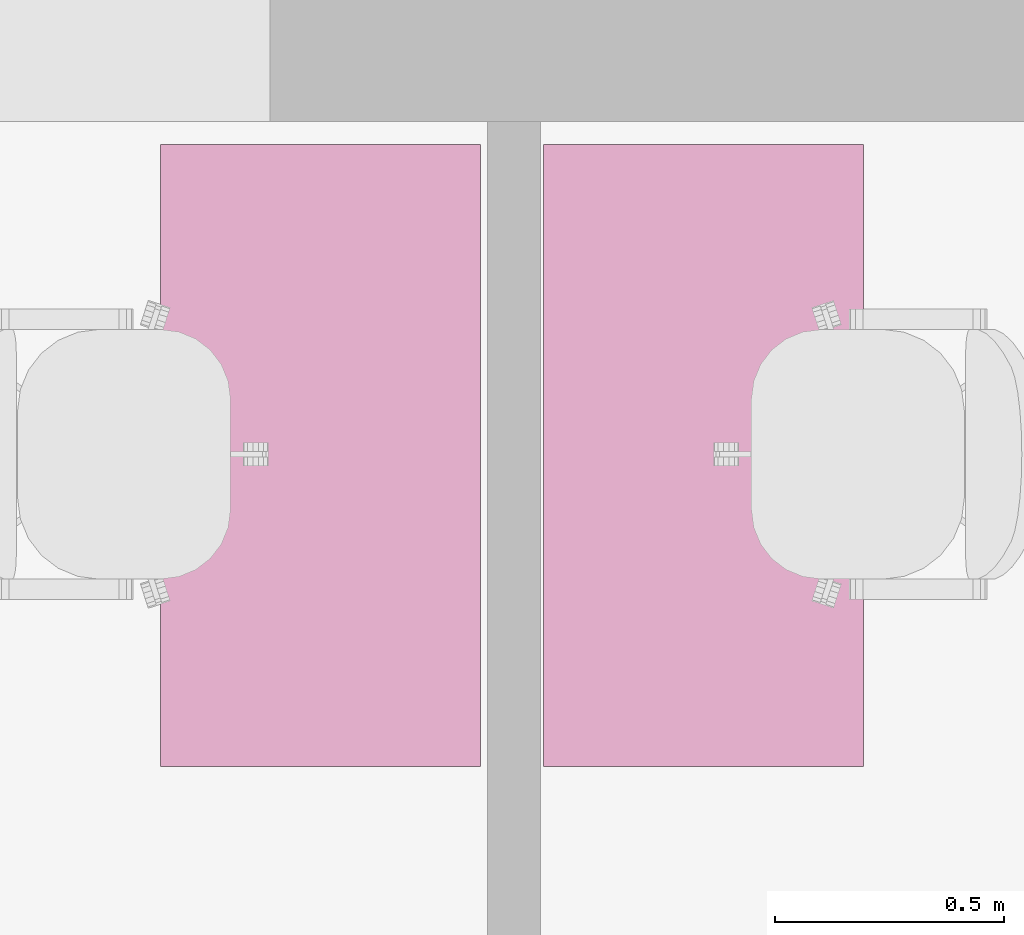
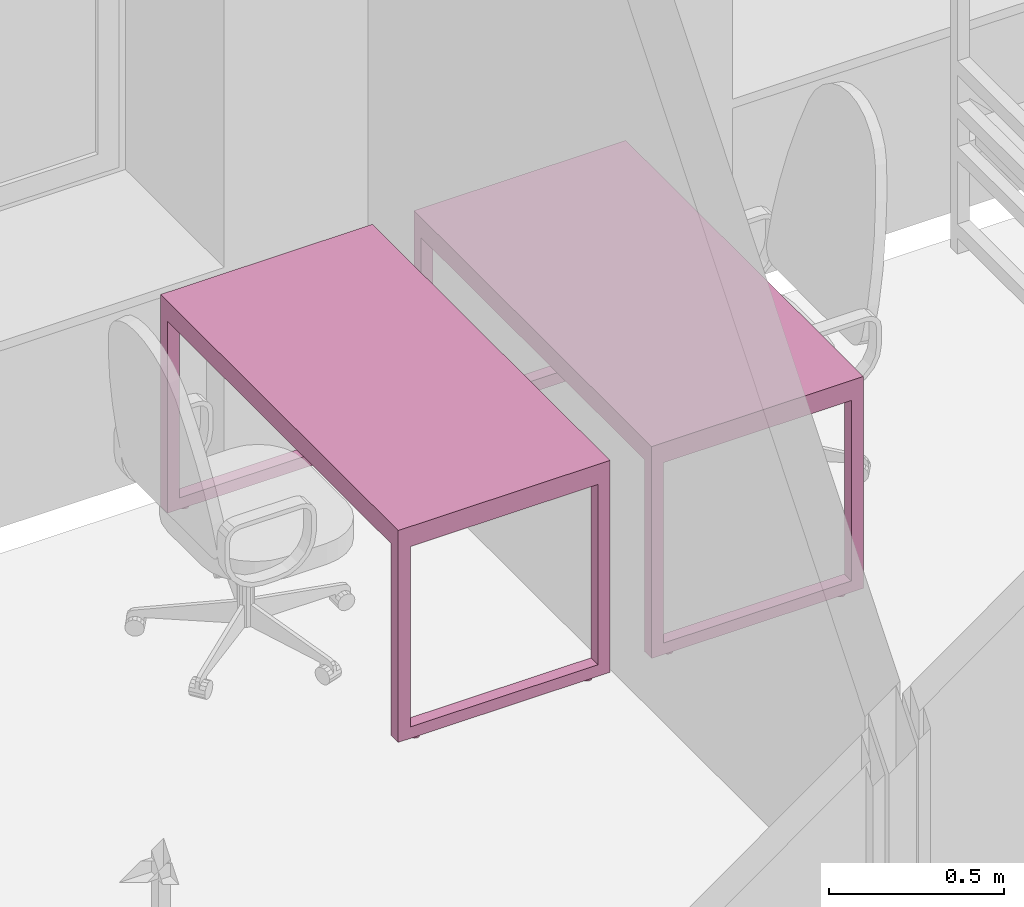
# One storey, part 40 of 48: 2 furnishings.
"""IFC2X3 building model written with IfcOpenShell, lengths in millimetres."""

from ifc_helpers import new_model, entity, si_unit, converted_unit, derived_unit, direction, frame, origin, place, context, subcontext, project, spatial, faceted_brep, source, transform, mapped, material, material_list, type_object, type_shapes, element, save


model = new_model("IFC2X3")

# Units and contexts
model_context = context("Model", 3, precision=0.01, world=origin(), true_north=direction((6.12303176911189e-17, 1.0)))
body_context = subcontext(model_context, "Body", "Model", "MODEL_VIEW")
ifc_project = project(units=[si_unit("LENGTHUNIT", "METRE", prefix="MILLI"), si_unit("AREAUNIT", "SQUARE_METRE"), si_unit("VOLUMEUNIT", "CUBIC_METRE"), converted_unit("PLANEANGLEUNIT", "DEGREE", entity("IfcRatioMeasure", 0.0174532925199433), si_unit("PLANEANGLEUNIT", "RADIAN"), dimensions=[0, 0, 0, 0, 0, 0, 0]), si_unit("MASSUNIT", "GRAM", prefix="KILO"), derived_unit("MASSDENSITYUNIT", [(si_unit("MASSUNIT", "GRAM", prefix="KILO"), 1), (si_unit("LENGTHUNIT", "METRE"), -3)]), si_unit("TIMEUNIT", "SECOND"), si_unit("FREQUENCYUNIT", "HERTZ"), si_unit("THERMODYNAMICTEMPERATUREUNIT", "DEGREE_CELSIUS"), derived_unit("THERMALTRANSMITTANCEUNIT", [(si_unit("MASSUNIT", "GRAM", prefix="KILO"), 1), (si_unit("THERMODYNAMICTEMPERATUREUNIT", "KELVIN"), -1), (si_unit("TIMEUNIT", "SECOND"), -3)]), derived_unit("VOLUMETRICFLOWRATEUNIT", [(si_unit("LENGTHUNIT", "METRE"), 3), (si_unit("TIMEUNIT", "SECOND"), -1)]), si_unit("ELECTRICCURRENTUNIT", "AMPERE"), si_unit("ELECTRICVOLTAGEUNIT", "VOLT"), si_unit("POWERUNIT", "WATT"), si_unit("FORCEUNIT", "NEWTON", prefix="KILO"), si_unit("ILLUMINANCEUNIT", "LUX"), si_unit("LUMINOUSFLUXUNIT", "LUMEN"), si_unit("LUMINOUSINTENSITYUNIT", "CANDELA"), derived_unit("USERDEFINED", [(si_unit("MASSUNIT", "GRAM", prefix="KILO"), -1), (si_unit("LENGTHUNIT", "METRE"), -2), (si_unit("TIMEUNIT", "SECOND"), 3), (si_unit("LUMINOUSFLUXUNIT", "LUMEN"), 1)]), derived_unit("LINEARVELOCITYUNIT", [(si_unit("LENGTHUNIT", "METRE"), 1), (si_unit("TIMEUNIT", "SECOND"), -1)]), si_unit("PRESSUREUNIT", "PASCAL"), derived_unit("USERDEFINED", [(si_unit("LENGTHUNIT", "METRE"), -2), (si_unit("MASSUNIT", "GRAM", prefix="KILO"), 1), (si_unit("TIMEUNIT", "SECOND"), -2)]), derived_unit("LINEARFORCEUNIT", [(si_unit("MASSUNIT", "GRAM", prefix="KILO"), 1), (si_unit("LENGTHUNIT", "METRE"), 1), (si_unit("TIMEUNIT", "SECOND"), -2), (si_unit("LENGTHUNIT", "METRE"), -1)]), derived_unit("PLANARFORCEUNIT", [(si_unit("MASSUNIT", "GRAM", prefix="KILO"), 1), (si_unit("LENGTHUNIT", "METRE"), 1), (si_unit("TIMEUNIT", "SECOND"), -2), (si_unit("LENGTHUNIT", "METRE"), -2)])], contexts=[model_context])

# Site, building, storey, space
site_placement = place(None, origin())
site = spatial("IfcSite", under=ifc_project, at=site_placement, Name="Default", CompositionType="ELEMENT")
building_placement = place(site_placement, origin())
building = spatial("IfcBuilding", under=site, at=building_placement, Name="SMA ARH", CompositionType="ELEMENT")
storey_placement = place(building_placement, frame((0.0, 0.0, 3300.0)))
storey = spatial("IfcBuildingStorey", under=building, at=storey_placement, Name="2 Korrus", CompositionType="ELEMENT", Elevation=3299.99999999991)
space_1_placement = place(storey_placement, origin())
space_1 = spatial("IfcSpace", under=storey, at=space_1_placement, Name="2-24", CompositionType="ELEMENT", InteriorOrExteriorSpace="INTERNAL")

# Furnishing
ifc_material = material(Name="<Unnamed>")
ifc_material_list_1 = material_list([ifc_material, ifc_material])
furniture_type_1 = type_object("IfcFurnitureType", Name="kirjutuslaud 1360x700mm:kirjutuslaud 1360x700mm", material=ifc_material_list_1)
shared_shape_1 = source(origin(), body_context, "Body", "Brep", [
    faceted_brep([(680.0, -350.0, 720.0), (680.0, 350.0, 720.0), (680.0, 350.0, 750.0), (680.0, -350.0, 750.0), (-680.0, -350.0, 720.0), (-680.0, -350.0, 750.0), (-680.0, 350.0, 750.0), (-680.0, 350.0, 720.0)], [[[0, 1, 2, 3]], [[4, 5, 6, 7]], [[1, 0, 4, 7]], [[2, 1, 7, 6]], [[3, 2, 6, 5]], [[0, 3, 5, 4]]]),
    faceted_brep([(-640.0, -310.0, 680.0), (-640.0, 310.0, 680.0), (-640.0, 310.0, 720.0), (-640.0, -310.0, 720.0), (-680.0, -350.0, 720.0), (-680.0, 350.0, 720.0), (-680.0, 350.0, 10.0), (-680.0, -350.0, 10.0), (-680.0, 310.0, 680.0), (-680.0, -310.0, 680.0), (-680.0, -310.0, 50.0), (-680.0, 310.0, 50.0), (-640.0, -350.0, 10.0), (-640.0, -350.0, 680.0), (640.0, -350.0, 680.0), (640.0, -350.0, 10.0), (680.0, -350.0, 10.0), (680.0, -350.0, 720.0), (-640.0, 350.0, 10.0), (680.0, 350.0, 720.0), (680.0, 350.0, 10.0), (640.0, 350.0, 10.0), (640.0, 350.0, 680.0), (-640.0, 350.0, 680.0), (640.0, 310.0, 720.0), (640.0, -310.0, 720.0), (-640.0, 310.0, 50.0), (-640.0, -310.0, 50.0), (640.0, -310.0, 680.0), (640.0, 310.0, 680.0), (680.0, 310.0, 680.0), (680.0, 310.0, 50.0), (680.0, -310.0, 50.0), (680.0, -310.0, 680.0), (640.0, -310.0, 50.0), (640.0, 310.0, 50.0)], [[[0, 1, 2, 3]], [[4, 5, 6, 7], [8, 9, 10, 11]], [[4, 7, 12, 13, 14, 15, 16, 17]], [[18, 12, 7, 6]], [[6, 5, 19, 20, 21, 22, 23, 18]], [[19, 5, 4, 17], [2, 24, 25, 3]], [[26, 1, 8, 11]], [[27, 26, 11, 10]], [[0, 27, 10, 9]], [[1, 0, 9, 8]], [[14, 13, 0, 28]], [[24, 2, 1, 29]], [[3, 25, 28, 0]], [[17, 16, 20, 19], [30, 31, 32, 33]], [[21, 15, 14, 28, 34, 35, 29, 22]], [[20, 16, 15, 21]], [[31, 30, 29, 35]], [[32, 31, 35, 34]], [[33, 32, 34, 28]], [[30, 33, 28, 29]], [[29, 28, 25, 24]], [[29, 1, 23, 22]], [[12, 18, 23, 1, 26, 27, 0, 13]]]),
    faceted_brep([(-663.729456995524, -270.466136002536, 0.0), (-659.847171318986, -269.955023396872, 0.0), (-655.964885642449, -270.466136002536, 0.0), (-652.347171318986, -271.964642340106, 0.0), (-649.240569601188, -274.348421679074, 0.0), (-646.85679026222, -277.455023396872, 0.0), (-645.35828392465, -281.072737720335, 0.0), (-644.847171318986, -284.955023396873, 0.0), (-645.35828392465, -288.83730907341, 0.0), (-646.85679026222, -292.455023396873, 0.0), (-649.240569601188, -295.561625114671, 0.0), (-652.347171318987, -297.945404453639, 0.0), (-655.964885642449, -299.443910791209, 0.0), (-659.847171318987, -299.955023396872, 0.0), (-663.729456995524, -299.443910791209, 0.0), (-667.347171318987, -297.945404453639, 0.0), (-670.453773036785, -295.561625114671, 0.0), (-672.837552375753, -292.455023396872, 0.0), (-674.336058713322, -288.83730907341, 0.0), (-674.847171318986, -284.955023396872, 0.0), (-674.336058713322, -281.072737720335, 0.0), (-672.837552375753, -277.455023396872, 0.0), (-670.453773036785, -274.348421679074, 0.0), (-667.347171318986, -271.964642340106, 0.0), (-655.964885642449, -299.443910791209, 10.0), (-652.347171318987, -297.945404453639, 10.0), (-649.240569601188, -295.561625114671, 10.0), (-646.85679026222, -292.455023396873, 10.0), (-645.35828392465, -288.83730907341, 10.0), (-644.847171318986, -284.955023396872, 10.0), (-645.35828392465, -281.072737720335, 10.0), (-646.85679026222, -277.455023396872, 10.0), (-649.240569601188, -274.348421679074, 10.0), (-652.347171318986, -271.964642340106, 10.0), (-655.964885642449, -270.466136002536, 10.0), (-659.847171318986, -269.955023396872, 10.0), (-663.729456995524, -270.466136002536, 10.0), (-667.347171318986, -271.964642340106, 10.0), (-670.453773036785, -274.348421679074, 10.0), (-672.837552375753, -277.455023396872, 10.0), (-674.336058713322, -281.072737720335, 10.0), (-674.847171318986, -284.955023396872, 10.0), (-674.336058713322, -288.83730907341, 10.0), (-672.837552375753, -292.455023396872, 10.0), (-670.453773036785, -295.561625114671, 10.0), (-667.347171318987, -297.945404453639, 10.0), (-663.729456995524, -299.443910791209, 10.0), (-659.847171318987, -299.955023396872, 10.0)], [[[0, 1, 2, 3, 4, 5, 6, 7, 8, 9, 10, 11, 12, 13, 14, 15, 16, 17, 18, 19, 20, 21, 22, 23]], [[24, 25, 26, 27, 28, 29, 30, 31, 32, 33, 34, 35, 36, 37, 38, 39, 40, 41, 42, 43, 44, 45, 46, 47]], [[18, 42, 41, 19]], [[17, 43, 42, 18]], [[45, 44, 16, 15]], [[17, 16, 44, 43]], [[46, 45, 15, 14]], [[47, 46, 14, 13]], [[12, 24, 47, 13]], [[11, 25, 24, 12]], [[27, 26, 10, 9]], [[11, 10, 26, 25]], [[28, 27, 9, 8]], [[29, 28, 8, 7]], [[6, 30, 29, 7]], [[5, 31, 30, 6]], [[33, 32, 4, 3]], [[5, 4, 32, 31]], [[34, 33, 3, 2]], [[35, 34, 2, 1]], [[0, 36, 35, 1]], [[23, 37, 36, 0]], [[39, 38, 22, 21]], [[23, 22, 38, 37]], [[40, 39, 21, 20]], [[41, 40, 20, 19]]]),
    faceted_brep([(-655.964885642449, 270.466136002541, 10.0), (-652.347171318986, 271.964642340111, 10.0), (-649.240569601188, 274.348421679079, 10.0), (-646.85679026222, 277.455023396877, 10.0), (-645.35828392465, 281.07273772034, 10.0), (-644.847171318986, 284.955023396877, 10.0), (-645.35828392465, 288.837309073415, 10.0), (-646.85679026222, 292.455023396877, 10.0), (-649.240569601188, 295.561625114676, 10.0), (-652.347171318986, 297.945404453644, 10.0), (-655.964885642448, 299.443910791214, 10.0), (-659.847171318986, 299.955023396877, 10.0), (-663.729456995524, 299.443910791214, 10.0), (-667.347171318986, 297.945404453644, 10.0), (-670.453773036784, 295.561625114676, 10.0), (-672.837552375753, 292.455023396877, 10.0), (-674.336058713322, 288.837309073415, 10.0), (-674.847171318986, 284.955023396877, 10.0), (-674.336058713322, 281.07273772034, 10.0), (-672.837552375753, 277.455023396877, 10.0), (-670.453773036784, 274.348421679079, 10.0), (-667.347171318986, 271.964642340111, 10.0), (-663.729456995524, 270.466136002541, 10.0), (-659.847171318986, 269.955023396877, 10.0), (-655.964885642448, 299.443910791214, 0.0), (-652.347171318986, 297.945404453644, 0.0), (-649.240569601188, 295.561625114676, 0.0), (-646.85679026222, 292.455023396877, 0.0), (-645.35828392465, 288.837309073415, 0.0), (-644.847171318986, 284.955023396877, 0.0), (-645.35828392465, 281.07273772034, 0.0), (-646.85679026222, 277.455023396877, 0.0), (-649.240569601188, 274.348421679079, 0.0), (-652.347171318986, 271.964642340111, 0.0), (-655.964885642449, 270.466136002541, 0.0), (-659.847171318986, 269.955023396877, 0.0), (-663.729456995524, 270.466136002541, 0.0), (-667.347171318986, 271.964642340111, 0.0), (-670.453773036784, 274.348421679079, 0.0), (-672.837552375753, 277.455023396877, 0.0), (-674.336058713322, 281.07273772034, 0.0), (-674.847171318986, 284.955023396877, 0.0), (-674.336058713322, 288.837309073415, 0.0), (-672.837552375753, 292.455023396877, 0.0), (-670.453773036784, 295.561625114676, 0.0), (-667.347171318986, 297.945404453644, 0.0), (-663.729456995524, 299.443910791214, 0.0), (-659.847171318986, 299.955023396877, 0.0)], [[[0, 1, 2, 3, 4, 5, 6, 7, 8, 9, 10, 11, 12, 13, 14, 15, 16, 17, 18, 19, 20, 21, 22, 23]], [[24, 25, 26, 27, 28, 29, 30, 31, 32, 33, 34, 35, 36, 37, 38, 39, 40, 41, 42, 43, 44, 45, 46, 47]], [[40, 18, 17, 41]], [[39, 19, 18, 40]], [[21, 20, 38, 37]], [[39, 38, 20, 19]], [[22, 21, 37, 36]], [[23, 22, 36, 35]], [[34, 0, 23, 35]], [[33, 1, 0, 34]], [[3, 2, 32, 31]], [[33, 32, 2, 1]], [[4, 3, 31, 30]], [[5, 4, 30, 29]], [[28, 6, 5, 29]], [[27, 7, 6, 28]], [[9, 8, 26, 25]], [[27, 26, 8, 7]], [[10, 9, 25, 24]], [[11, 10, 24, 47]], [[46, 12, 11, 47]], [[45, 13, 12, 46]], [[15, 14, 44, 43]], [[45, 44, 14, 13]], [[16, 15, 43, 42]], [[17, 16, 42, 41]]]),
    faceted_brep([(656.270543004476, -270.466136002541, 0.0), (660.152828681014, -269.955023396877, 0.0), (664.035114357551, -270.466136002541, 0.0), (667.652828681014, -271.96464234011, 0.0), (670.759430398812, -274.348421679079, 0.0), (673.14320973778, -277.455023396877, 0.0), (674.64171607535, -281.072737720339, 0.0), (675.152828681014, -284.955023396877, 0.0), (674.64171607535, -288.837309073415, 0.0), (673.14320973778, -292.455023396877, 0.0), (670.759430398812, -295.561625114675, 0.0), (667.652828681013, -297.945404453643, 0.0), (664.035114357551, -299.443910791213, 0.0), (660.152828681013, -299.955023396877, 0.0), (656.270543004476, -299.443910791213, 0.0), (652.652828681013, -297.945404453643, 0.0), (649.546226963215, -295.561625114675, 0.0), (647.162447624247, -292.455023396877, 0.0), (645.663941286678, -288.837309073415, 0.0), (645.152828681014, -284.955023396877, 0.0), (645.663941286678, -281.072737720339, 0.0), (647.162447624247, -277.455023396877, 0.0), (649.546226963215, -274.348421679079, 0.0), (652.652828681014, -271.96464234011, 0.0), (664.035114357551, -299.443910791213, 10.0), (667.652828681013, -297.945404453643, 10.0), (670.759430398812, -295.561625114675, 10.0), (673.14320973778, -292.455023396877, 10.0), (674.64171607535, -288.837309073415, 10.0), (675.152828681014, -284.955023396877, 10.0), (674.64171607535, -281.072737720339, 10.0), (673.14320973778, -277.455023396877, 10.0), (670.759430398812, -274.348421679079, 10.0), (667.652828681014, -271.96464234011, 10.0), (664.035114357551, -270.466136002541, 10.0), (660.152828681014, -269.955023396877, 10.0), (656.270543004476, -270.466136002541, 10.0), (652.652828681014, -271.96464234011, 10.0), (649.546226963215, -274.348421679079, 10.0), (647.162447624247, -277.455023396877, 10.0), (645.663941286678, -281.072737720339, 10.0), (645.152828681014, -284.955023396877, 10.0), (645.663941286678, -288.837309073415, 10.0), (647.162447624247, -292.455023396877, 10.0), (649.546226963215, -295.561625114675, 10.0), (652.652828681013, -297.945404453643, 10.0), (656.270543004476, -299.443910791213, 10.0), (660.152828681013, -299.955023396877, 10.0)], [[[0, 1, 2, 3, 4, 5, 6, 7, 8, 9, 10, 11, 12, 13, 14, 15, 16, 17, 18, 19, 20, 21, 22, 23]], [[24, 25, 26, 27, 28, 29, 30, 31, 32, 33, 34, 35, 36, 37, 38, 39, 40, 41, 42, 43, 44, 45, 46, 47]], [[18, 42, 41, 19]], [[17, 43, 42, 18]], [[45, 44, 16, 15]], [[17, 16, 44, 43]], [[46, 45, 15, 14]], [[47, 46, 14, 13]], [[12, 24, 47, 13]], [[11, 25, 24, 12]], [[27, 26, 10, 9]], [[11, 10, 26, 25]], [[28, 27, 9, 8]], [[29, 28, 8, 7]], [[6, 30, 29, 7]], [[5, 31, 30, 6]], [[33, 32, 4, 3]], [[5, 4, 32, 31]], [[34, 33, 3, 2]], [[35, 34, 2, 1]], [[0, 36, 35, 1]], [[23, 37, 36, 0]], [[39, 38, 22, 21]], [[23, 22, 38, 37]], [[40, 39, 21, 20]], [[41, 40, 20, 19]]]),
    faceted_brep([(664.035114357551, 270.466136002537, 10.0), (667.652828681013, 271.964642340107, 10.0), (670.759430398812, 274.348421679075, 10.0), (673.14320973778, 277.455023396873, 10.0), (674.64171607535, 281.072737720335, 10.0), (675.152828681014, 284.955023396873, 10.0), (674.64171607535, 288.837309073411, 10.0), (673.14320973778, 292.455023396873, 10.0), (670.759430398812, 295.561625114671, 10.0), (667.652828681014, 297.94540445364, 10.0), (664.035114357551, 299.443910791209, 10.0), (660.152828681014, 299.955023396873, 10.0), (656.270543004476, 299.443910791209, 10.0), (652.652828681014, 297.94540445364, 10.0), (649.546226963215, 295.561625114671, 10.0), (647.162447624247, 292.455023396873, 10.0), (645.663941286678, 288.837309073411, 10.0), (645.152828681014, 284.955023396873, 10.0), (645.663941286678, 281.072737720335, 10.0), (647.162447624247, 277.455023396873, 10.0), (649.546226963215, 274.348421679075, 10.0), (652.652828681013, 271.964642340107, 10.0), (656.270543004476, 270.466136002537, 10.0), (660.152828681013, 269.955023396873, 10.0), (664.035114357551, 299.443910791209, 0.0), (667.652828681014, 297.94540445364, 0.0), (670.759430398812, 295.561625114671, 0.0), (673.14320973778, 292.455023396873, 0.0), (674.64171607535, 288.837309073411, 0.0), (675.152828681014, 284.955023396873, 0.0), (674.64171607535, 281.072737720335, 0.0), (673.14320973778, 277.455023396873, 0.0), (670.759430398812, 274.348421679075, 0.0), (667.652828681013, 271.964642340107, 0.0), (664.035114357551, 270.466136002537, 0.0), (660.152828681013, 269.955023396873, 0.0), (656.270543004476, 270.466136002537, 0.0), (652.652828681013, 271.964642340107, 0.0), (649.546226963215, 274.348421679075, 0.0), (647.162447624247, 277.455023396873, 0.0), (645.663941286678, 281.072737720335, 0.0), (645.152828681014, 284.955023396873, 0.0), (645.663941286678, 288.837309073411, 0.0), (647.162447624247, 292.455023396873, 0.0), (649.546226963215, 295.561625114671, 0.0), (652.652828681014, 297.94540445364, 0.0), (656.270543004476, 299.443910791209, 0.0), (660.152828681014, 299.955023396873, 0.0)], [[[0, 1, 2, 3, 4, 5, 6, 7, 8, 9, 10, 11, 12, 13, 14, 15, 16, 17, 18, 19, 20, 21, 22, 23]], [[24, 25, 26, 27, 28, 29, 30, 31, 32, 33, 34, 35, 36, 37, 38, 39, 40, 41, 42, 43, 44, 45, 46, 47]], [[40, 18, 17, 41]], [[39, 19, 18, 40]], [[21, 20, 38, 37]], [[39, 38, 20, 19]], [[22, 21, 37, 36]], [[23, 22, 36, 35]], [[34, 0, 23, 35]], [[33, 1, 0, 34]], [[3, 2, 32, 31]], [[33, 32, 2, 1]], [[4, 3, 31, 30]], [[5, 4, 30, 29]], [[28, 6, 5, 29]], [[27, 7, 6, 28]], [[9, 8, 26, 25]], [[27, 26, 8, 7]], [[10, 9, 25, 24]], [[11, 10, 24, 47]], [[46, 12, 11, 47]], [[45, 13, 12, 46]], [[15, 14, 44, 43]], [[45, 44, 14, 13]], [[16, 15, 43, 42]], [[17, 16, 42, 41]]]),
])
type_shapes(furniture_type_1, [shared_shape_1])
furnishing_1_placement = place(space_1_placement, frame((19658.0, 11770.0, 0.0), z_axis=(0.0, 0.0, 1.0), x_axis=(0.0, 1.0, 0.0)))
element("IfcFurnishingElement", 1, at=furnishing_1_placement, inside=space_1, type_object=furniture_type_1, Name="kirjutuslaud 1360x700mm:kirjutuslaud 1360x700mm", ObjectType="kirjutuslaud 1360x700mm:kirjutuslaud 1360x700mm", context=body_context, shape_type="MappedRepresentation", body=[
    mapped(shared_shape_1, transform((0.0, 0.0, 0.0), scale=1.0)),
])

# Space
space_2_placement = place(storey_placement, origin())
space_2 = spatial("IfcSpace", under=storey, at=space_2_placement, Name="2-23", CompositionType="ELEMENT", InteriorOrExteriorSpace="INTERNAL")

# Furnishing
ifc_material_list_2 = material_list([ifc_material, ifc_material])
furniture_type_2 = type_object("IfcFurnitureType", Name="kirjutuslaud 1360x700mm:kirjutuslaud 1360x700mm", material=ifc_material_list_2)
shared_shape_2 = source(origin(), body_context, "Body", "Brep", [
    faceted_brep([(680.0, 350.0, 720.0), (680.0, 350.0, 750.0), (680.0, -350.0, 750.0), (680.0, -350.0, 720.0), (-680.0, 350.0, 720.0), (-680.0, -350.0, 720.0), (-680.0, -350.0, 750.0), (-680.0, 350.0, 750.0)], [[[0, 1, 2, 3]], [[4, 5, 6, 7]], [[3, 5, 4, 0]], [[2, 6, 5, 3]], [[1, 7, 6, 2]], [[0, 4, 7, 1]]]),
    faceted_brep([(-640.0, 310.0, 680.0), (-640.0, 310.0, 720.0), (-640.0, -310.0, 720.0), (-640.0, -310.0, 680.0), (-680.0, 350.0, 720.0), (-680.0, 350.0, 10.0), (-680.0, -350.0, 10.0), (-680.0, -350.0, 720.0), (-680.0, -310.0, 680.0), (-680.0, -310.0, 50.0), (-680.0, 310.0, 50.0), (-680.0, 310.0, 680.0), (680.0, 350.0, 720.0), (680.0, 350.0, 10.0), (640.0, 350.0, 10.0), (640.0, 350.0, 680.0), (-640.0, 350.0, 680.0), (-640.0, 350.0, 10.0), (-640.0, -350.0, 10.0), (-640.0, -350.0, 680.0), (640.0, -350.0, 680.0), (640.0, -350.0, 10.0), (680.0, -350.0, 10.0), (680.0, -350.0, 720.0), (640.0, 310.0, 720.0), (640.0, -310.0, 720.0), (-640.0, -310.0, 50.0), (-640.0, 310.0, 50.0), (640.0, -310.0, 680.0), (640.0, 310.0, 680.0), (680.0, -310.0, 680.0), (680.0, 310.0, 680.0), (680.0, 310.0, 50.0), (680.0, -310.0, 50.0), (640.0, -310.0, 50.0), (640.0, 310.0, 50.0)], [[[0, 1, 2, 3]], [[4, 5, 6, 7], [8, 9, 10, 11]], [[4, 12, 13, 14, 15, 16, 17, 5]], [[18, 6, 5, 17]], [[6, 18, 19, 20, 21, 22, 23, 7]], [[2, 1, 24, 25], [23, 12, 4, 7]], [[26, 9, 8, 3]], [[27, 10, 9, 26]], [[0, 11, 10, 27]], [[3, 8, 11, 0]], [[28, 20, 19, 3]], [[25, 28, 3, 2]], [[1, 0, 29, 24]], [[12, 23, 22, 13], [30, 31, 32, 33]], [[21, 20, 28, 34, 35, 29, 15, 14]], [[22, 21, 14, 13]], [[33, 34, 28, 30]], [[32, 35, 34, 33]], [[31, 29, 35, 32]], [[30, 28, 29, 31]], [[28, 25, 24, 29]], [[15, 29, 0, 16]], [[17, 16, 0, 27, 26, 3, 19, 18]]], outer=[[True], [True, False], [True], [True], [True], [False, True], [True], [True], [True], [True], [True], [True], [True], [True, False], [True], [True], [True], [True], [True], [True], [True], [True], [True]]),
    faceted_brep([(-655.964885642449, 270.466136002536, 0.0), (-659.847171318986, 269.955023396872, 0.0), (-663.729456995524, 270.466136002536, 0.0), (-667.347171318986, 271.964642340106, 0.0), (-670.453773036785, 274.348421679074, 0.0), (-672.837552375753, 277.455023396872, 0.0), (-674.336058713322, 281.072737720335, 0.0), (-674.847171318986, 284.955023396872, 0.0), (-674.336058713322, 288.83730907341, 0.0), (-672.837552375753, 292.455023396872, 0.0), (-670.453773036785, 295.561625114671, 0.0), (-667.347171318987, 297.945404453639, 0.0), (-663.729456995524, 299.443910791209, 0.0), (-659.847171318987, 299.955023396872, 0.0), (-655.964885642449, 299.443910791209, 0.0), (-652.347171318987, 297.945404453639, 0.0), (-649.240569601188, 295.561625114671, 0.0), (-646.85679026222, 292.455023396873, 0.0), (-645.35828392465, 288.83730907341, 0.0), (-644.847171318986, 284.955023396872, 0.0), (-645.35828392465, 281.072737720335, 0.0), (-646.85679026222, 277.455023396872, 0.0), (-649.240569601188, 274.348421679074, 0.0), (-652.347171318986, 271.964642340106, 0.0), (-649.240569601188, 295.561625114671, 10.0), (-652.347171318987, 297.945404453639, 10.0), (-655.964885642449, 299.443910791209, 10.0), (-659.847171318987, 299.955023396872, 10.0), (-663.729456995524, 299.443910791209, 10.0), (-667.347171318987, 297.945404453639, 10.0), (-670.453773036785, 295.561625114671, 10.0), (-672.837552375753, 292.455023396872, 10.0), (-674.336058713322, 288.83730907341, 10.0), (-674.847171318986, 284.955023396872, 10.0), (-674.336058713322, 281.072737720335, 10.0), (-672.837552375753, 277.455023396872, 10.0), (-670.453773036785, 274.348421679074, 10.0), (-667.347171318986, 271.964642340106, 10.0), (-663.729456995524, 270.466136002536, 10.0), (-659.847171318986, 269.955023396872, 10.0), (-655.964885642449, 270.466136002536, 10.0), (-652.347171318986, 271.964642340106, 10.0), (-649.240569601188, 274.348421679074, 10.0), (-646.85679026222, 277.455023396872, 10.0), (-645.35828392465, 281.072737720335, 10.0), (-644.847171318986, 284.955023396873, 10.0), (-645.35828392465, 288.83730907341, 10.0), (-646.85679026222, 292.455023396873, 10.0)], [[[0, 1, 2, 3, 4, 5, 6, 7, 8, 9, 10, 11, 12, 13, 14, 15, 16, 17, 18, 19, 20, 21, 22, 23]], [[24, 25, 26, 27, 28, 29, 30, 31, 32, 33, 34, 35, 36, 37, 38, 39, 40, 41, 42, 43, 44, 45, 46, 47]], [[7, 33, 32, 8]], [[8, 32, 31, 9]], [[11, 10, 30, 29]], [[30, 10, 9, 31]], [[12, 11, 29, 28]], [[12, 28, 27, 13]], [[13, 27, 26, 14]], [[14, 26, 25, 15]], [[17, 16, 24, 47]], [[24, 16, 15, 25]], [[18, 17, 47, 46]], [[18, 46, 45, 19]], [[19, 45, 44, 20]], [[20, 44, 43, 21]], [[23, 22, 42, 41]], [[42, 22, 21, 43]], [[0, 23, 41, 40]], [[0, 40, 39, 1]], [[1, 39, 38, 2]], [[2, 38, 37, 3]], [[5, 4, 36, 35]], [[36, 4, 3, 37]], [[6, 5, 35, 34]], [[6, 34, 33, 7]]]),
    faceted_brep([(-649.240569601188, -274.348421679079, 10.0), (-652.347171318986, -271.964642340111, 10.0), (-655.964885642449, -270.466136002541, 10.0), (-659.847171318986, -269.955023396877, 10.0), (-663.729456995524, -270.466136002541, 10.0), (-667.347171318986, -271.964642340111, 10.0), (-670.453773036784, -274.348421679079, 10.0), (-672.837552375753, -277.455023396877, 10.0), (-674.336058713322, -281.07273772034, 10.0), (-674.847171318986, -284.955023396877, 10.0), (-674.336058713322, -288.837309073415, 10.0), (-672.837552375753, -292.455023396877, 10.0), (-670.453773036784, -295.561625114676, 10.0), (-667.347171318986, -297.945404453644, 10.0), (-663.729456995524, -299.443910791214, 10.0), (-659.847171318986, -299.955023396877, 10.0), (-655.964885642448, -299.443910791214, 10.0), (-652.347171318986, -297.945404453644, 10.0), (-649.240569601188, -295.561625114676, 10.0), (-646.85679026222, -292.455023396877, 10.0), (-645.35828392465, -288.837309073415, 10.0), (-644.847171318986, -284.955023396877, 10.0), (-645.35828392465, -281.07273772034, 10.0), (-646.85679026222, -277.455023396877, 10.0), (-659.847171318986, -299.955023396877, 0.0), (-663.729456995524, -299.443910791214, 0.0), (-667.347171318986, -297.945404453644, 0.0), (-670.453773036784, -295.561625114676, 0.0), (-672.837552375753, -292.455023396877, 0.0), (-674.336058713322, -288.837309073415, 0.0), (-674.847171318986, -284.955023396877, 0.0), (-674.336058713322, -281.07273772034, 0.0), (-672.837552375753, -277.455023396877, 0.0), (-670.453773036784, -274.348421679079, 0.0), (-667.347171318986, -271.964642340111, 0.0), (-663.729456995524, -270.466136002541, 0.0), (-659.847171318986, -269.955023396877, 0.0), (-655.964885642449, -270.466136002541, 0.0), (-652.347171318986, -271.964642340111, 0.0), (-649.240569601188, -274.348421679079, 0.0), (-646.85679026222, -277.455023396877, 0.0), (-645.35828392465, -281.07273772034, 0.0), (-644.847171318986, -284.955023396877, 0.0), (-645.35828392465, -288.837309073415, 0.0), (-646.85679026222, -292.455023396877, 0.0), (-649.240569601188, -295.561625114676, 0.0), (-652.347171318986, -297.945404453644, 0.0), (-655.964885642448, -299.443910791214, 0.0)], [[[0, 1, 2, 3, 4, 5, 6, 7, 8, 9, 10, 11, 12, 13, 14, 15, 16, 17, 18, 19, 20, 21, 22, 23]], [[24, 25, 26, 27, 28, 29, 30, 31, 32, 33, 34, 35, 36, 37, 38, 39, 40, 41, 42, 43, 44, 45, 46, 47]], [[30, 9, 8, 31]], [[31, 8, 7, 32]], [[34, 33, 6, 5]], [[6, 33, 32, 7]], [[35, 34, 5, 4]], [[35, 4, 3, 36]], [[36, 3, 2, 37]], [[37, 2, 1, 38]], [[40, 39, 0, 23]], [[0, 39, 38, 1]], [[41, 40, 23, 22]], [[41, 22, 21, 42]], [[42, 21, 20, 43]], [[43, 20, 19, 44]], [[46, 45, 18, 17]], [[18, 45, 44, 19]], [[47, 46, 17, 16]], [[47, 16, 15, 24]], [[24, 15, 14, 25]], [[25, 14, 13, 26]], [[28, 27, 12, 11]], [[12, 27, 26, 13]], [[29, 28, 11, 10]], [[29, 10, 9, 30]]]),
    faceted_brep([(664.035114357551, 270.466136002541, 0.0), (660.152828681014, 269.955023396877, 0.0), (656.270543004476, 270.466136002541, 0.0), (652.652828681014, 271.96464234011, 0.0), (649.546226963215, 274.348421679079, 0.0), (647.162447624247, 277.455023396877, 0.0), (645.663941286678, 281.072737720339, 0.0), (645.152828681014, 284.955023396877, 0.0), (645.663941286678, 288.837309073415, 0.0), (647.162447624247, 292.455023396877, 0.0), (649.546226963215, 295.561625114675, 0.0), (652.652828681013, 297.945404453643, 0.0), (656.270543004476, 299.443910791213, 0.0), (660.152828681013, 299.955023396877, 0.0), (664.035114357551, 299.443910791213, 0.0), (667.652828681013, 297.945404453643, 0.0), (670.759430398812, 295.561625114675, 0.0), (673.14320973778, 292.455023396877, 0.0), (674.64171607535, 288.837309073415, 0.0), (675.152828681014, 284.955023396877, 0.0), (674.64171607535, 281.072737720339, 0.0), (673.14320973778, 277.455023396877, 0.0), (670.759430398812, 274.348421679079, 0.0), (667.652828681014, 271.96464234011, 0.0), (670.759430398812, 295.561625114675, 10.0), (667.652828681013, 297.945404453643, 10.0), (664.035114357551, 299.443910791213, 10.0), (660.152828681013, 299.955023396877, 10.0), (656.270543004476, 299.443910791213, 10.0), (652.652828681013, 297.945404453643, 10.0), (649.546226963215, 295.561625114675, 10.0), (647.162447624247, 292.455023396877, 10.0), (645.663941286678, 288.837309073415, 10.0), (645.152828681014, 284.955023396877, 10.0), (645.663941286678, 281.072737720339, 10.0), (647.162447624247, 277.455023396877, 10.0), (649.546226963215, 274.348421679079, 10.0), (652.652828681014, 271.96464234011, 10.0), (656.270543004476, 270.466136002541, 10.0), (660.152828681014, 269.955023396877, 10.0), (664.035114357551, 270.466136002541, 10.0), (667.652828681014, 271.96464234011, 10.0), (670.759430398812, 274.348421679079, 10.0), (673.14320973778, 277.455023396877, 10.0), (674.64171607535, 281.072737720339, 10.0), (675.152828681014, 284.955023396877, 10.0), (674.64171607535, 288.837309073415, 10.0), (673.14320973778, 292.455023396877, 10.0)], [[[0, 1, 2, 3, 4, 5, 6, 7, 8, 9, 10, 11, 12, 13, 14, 15, 16, 17, 18, 19, 20, 21, 22, 23]], [[24, 25, 26, 27, 28, 29, 30, 31, 32, 33, 34, 35, 36, 37, 38, 39, 40, 41, 42, 43, 44, 45, 46, 47]], [[7, 33, 32, 8]], [[8, 32, 31, 9]], [[11, 10, 30, 29]], [[30, 10, 9, 31]], [[12, 11, 29, 28]], [[12, 28, 27, 13]], [[13, 27, 26, 14]], [[14, 26, 25, 15]], [[17, 16, 24, 47]], [[24, 16, 15, 25]], [[18, 17, 47, 46]], [[18, 46, 45, 19]], [[19, 45, 44, 20]], [[20, 44, 43, 21]], [[23, 22, 42, 41]], [[42, 22, 21, 43]], [[0, 23, 41, 40]], [[0, 40, 39, 1]], [[1, 39, 38, 2]], [[2, 38, 37, 3]], [[5, 4, 36, 35]], [[36, 4, 3, 37]], [[6, 5, 35, 34]], [[6, 34, 33, 7]]]),
    faceted_brep([(670.759430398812, -274.348421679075, 10.0), (667.652828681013, -271.964642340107, 10.0), (664.035114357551, -270.466136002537, 10.0), (660.152828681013, -269.955023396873, 10.0), (656.270543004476, -270.466136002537, 10.0), (652.652828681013, -271.964642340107, 10.0), (649.546226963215, -274.348421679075, 10.0), (647.162447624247, -277.455023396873, 10.0), (645.663941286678, -281.072737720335, 10.0), (645.152828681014, -284.955023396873, 10.0), (645.663941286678, -288.837309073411, 10.0), (647.162447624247, -292.455023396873, 10.0), (649.546226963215, -295.561625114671, 10.0), (652.652828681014, -297.94540445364, 10.0), (656.270543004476, -299.443910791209, 10.0), (660.152828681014, -299.955023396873, 10.0), (664.035114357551, -299.443910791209, 10.0), (667.652828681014, -297.94540445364, 10.0), (670.759430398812, -295.561625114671, 10.0), (673.14320973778, -292.455023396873, 10.0), (674.64171607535, -288.837309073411, 10.0), (675.152828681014, -284.955023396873, 10.0), (674.64171607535, -281.072737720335, 10.0), (673.14320973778, -277.455023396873, 10.0), (660.152828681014, -299.955023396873, 0.0), (656.270543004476, -299.443910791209, 0.0), (652.652828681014, -297.94540445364, 0.0), (649.546226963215, -295.561625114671, 0.0), (647.162447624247, -292.455023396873, 0.0), (645.663941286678, -288.837309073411, 0.0), (645.152828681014, -284.955023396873, 0.0), (645.663941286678, -281.072737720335, 0.0), (647.162447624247, -277.455023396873, 0.0), (649.546226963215, -274.348421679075, 0.0), (652.652828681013, -271.964642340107, 0.0), (656.270543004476, -270.466136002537, 0.0), (660.152828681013, -269.955023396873, 0.0), (664.035114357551, -270.466136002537, 0.0), (667.652828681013, -271.964642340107, 0.0), (670.759430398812, -274.348421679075, 0.0), (673.14320973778, -277.455023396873, 0.0), (674.64171607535, -281.072737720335, 0.0), (675.152828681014, -284.955023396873, 0.0), (674.64171607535, -288.837309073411, 0.0), (673.14320973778, -292.455023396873, 0.0), (670.759430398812, -295.561625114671, 0.0), (667.652828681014, -297.94540445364, 0.0), (664.035114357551, -299.443910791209, 0.0)], [[[0, 1, 2, 3, 4, 5, 6, 7, 8, 9, 10, 11, 12, 13, 14, 15, 16, 17, 18, 19, 20, 21, 22, 23]], [[24, 25, 26, 27, 28, 29, 30, 31, 32, 33, 34, 35, 36, 37, 38, 39, 40, 41, 42, 43, 44, 45, 46, 47]], [[30, 9, 8, 31]], [[31, 8, 7, 32]], [[34, 33, 6, 5]], [[6, 33, 32, 7]], [[35, 34, 5, 4]], [[35, 4, 3, 36]], [[36, 3, 2, 37]], [[37, 2, 1, 38]], [[40, 39, 0, 23]], [[0, 39, 38, 1]], [[41, 40, 23, 22]], [[41, 22, 21, 42]], [[42, 21, 20, 43]], [[43, 20, 19, 44]], [[46, 45, 18, 17]], [[18, 45, 44, 19]], [[47, 46, 17, 16]], [[47, 16, 15, 24]], [[24, 15, 14, 25]], [[25, 14, 13, 26]], [[28, 27, 12, 11]], [[12, 27, 26, 13]], [[29, 28, 11, 10]], [[29, 10, 9, 30]]]),
])
type_shapes(furniture_type_2, [shared_shape_2])
furnishing_2_placement = place(space_2_placement, frame((18821.0, 11770.0, 0.0), z_axis=(0.0, 0.0, 1.0), x_axis=(0.0, 1.0, 0.0)))
element("IfcFurnishingElement", 2, at=furnishing_2_placement, inside=space_2, type_object=furniture_type_2, Name="kirjutuslaud 1360x700mm:kirjutuslaud 1360x700mm", ObjectType="kirjutuslaud 1360x700mm:kirjutuslaud 1360x700mm", context=body_context, shape_type="MappedRepresentation", body=[
    mapped(shared_shape_2, transform((0.0, 0.0, 0.0), scale=1.0)),
])

save(model, "model.ifc")
